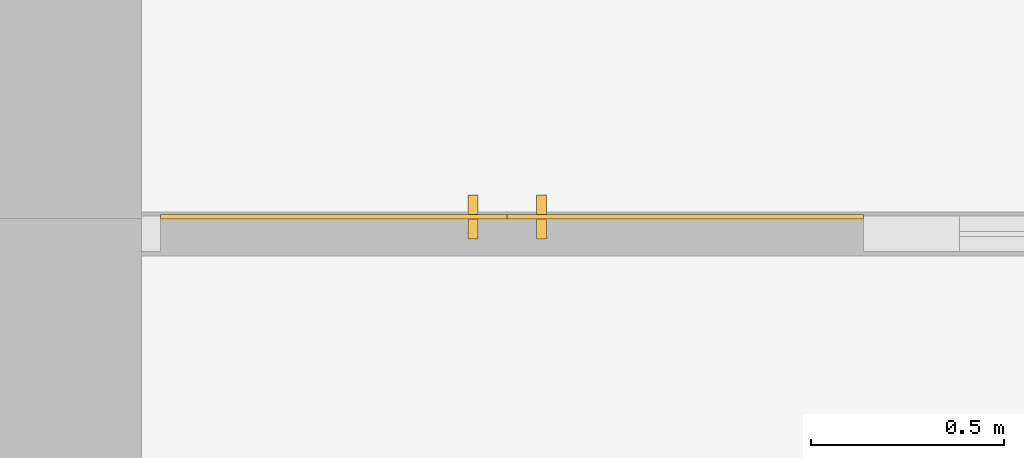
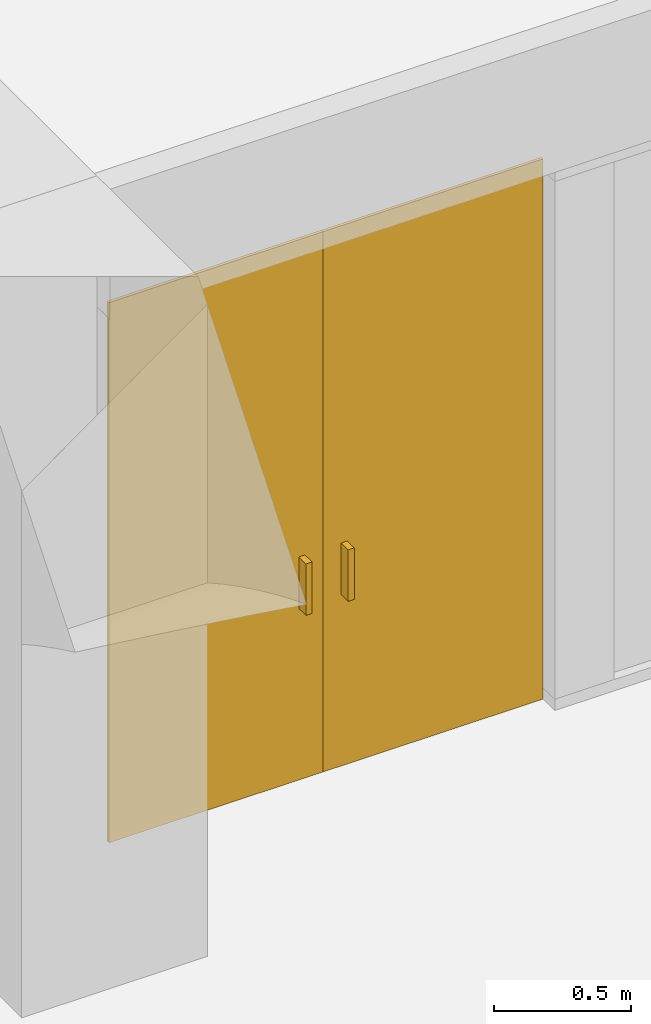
# One storey, part 85 of 88: 2 doors, 1 element without a shape of its own.
"""IFC2X3 building model written with IfcOpenShell, lengths in millimetres."""

from ifc_helpers import new_model, entity, si_unit, converted_unit, derived_unit, direction, frame, frame_2d, origin, place, context, subcontext, project, spatial, rectangle, extrude, source, transform, mapped, material, material_list, type_object, type_shapes, element, aggregate, save


model = new_model("IFC2X3")

# Units and contexts
model_context = context("Model", 3, precision=0.01, world=origin(), true_north=direction((6.123031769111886e-17, 1.0)))
body_context = subcontext(model_context, "Body", "Model", "MODEL_VIEW")
ifc_project = project(units=[si_unit("LENGTHUNIT", "METRE", prefix="MILLI"), si_unit("AREAUNIT", "SQUARE_METRE"), si_unit("VOLUMEUNIT", "CUBIC_METRE"), converted_unit("PLANEANGLEUNIT", "DEGREE", entity("IfcPlaneAngleMeasure", 0.017453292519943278), si_unit("PLANEANGLEUNIT", "RADIAN"), dimensions=[0, 0, 0, 0, 0, 0, 0]), si_unit("MASSUNIT", "GRAM", prefix="KILO"), derived_unit("MASSDENSITYUNIT", [(si_unit("MASSUNIT", "GRAM", prefix="KILO"), 1), (si_unit("LENGTHUNIT", "METRE"), -3)]), derived_unit("IONCONCENTRATIONUNIT", [(si_unit("MASSUNIT", "GRAM", prefix="KILO"), 1), (si_unit("LENGTHUNIT", "METRE"), -3)]), derived_unit("MOMENTOFINERTIAUNIT", [(si_unit("LENGTHUNIT", "METRE"), 4)]), si_unit("TIMEUNIT", "SECOND"), si_unit("FREQUENCYUNIT", "HERTZ"), si_unit("THERMODYNAMICTEMPERATUREUNIT", "DEGREE_CELSIUS"), derived_unit("THERMALTRANSMITTANCEUNIT", [(si_unit("MASSUNIT", "GRAM", prefix="KILO"), 1), (si_unit("THERMODYNAMICTEMPERATUREUNIT", "KELVIN"), -1), (si_unit("TIMEUNIT", "SECOND"), -3)]), derived_unit("THERMALCONDUCTANCEUNIT", [(si_unit("MASSUNIT", "GRAM", prefix="KILO"), 1), (si_unit("THERMODYNAMICTEMPERATUREUNIT", "KELVIN"), -1), (si_unit("TIMEUNIT", "SECOND"), -3), (si_unit("LENGTHUNIT", "METRE"), 1)]), derived_unit("VOLUMETRICFLOWRATEUNIT", [(si_unit("LENGTHUNIT", "METRE", prefix="DECI"), 3), (si_unit("TIMEUNIT", "SECOND"), -1)]), derived_unit("MASSFLOWRATEUNIT", [(si_unit("MASSUNIT", "GRAM", prefix="KILO"), 1), (si_unit("TIMEUNIT", "SECOND"), -1)]), derived_unit("ROTATIONALFREQUENCYUNIT", [(si_unit("TIMEUNIT", "SECOND"), -1)]), si_unit("ELECTRICCURRENTUNIT", "AMPERE"), si_unit("ELECTRICVOLTAGEUNIT", "VOLT"), si_unit("POWERUNIT", "WATT"), si_unit("FORCEUNIT", "NEWTON", prefix="KILO"), si_unit("ILLUMINANCEUNIT", "LUX"), si_unit("LUMINOUSFLUXUNIT", "LUMEN"), si_unit("LUMINOUSINTENSITYUNIT", "CANDELA"), si_unit("ENERGYUNIT", "JOULE"), derived_unit("USERDEFINED", [(si_unit("MASSUNIT", "GRAM", prefix="KILO"), -1), (si_unit("LENGTHUNIT", "METRE"), -2), (si_unit("TIMEUNIT", "SECOND"), 3), (si_unit("LUMINOUSFLUXUNIT", "LUMEN"), 1)]), derived_unit("USERDEFINED", [(si_unit("MASSUNIT", "GRAM", prefix="KILO"), 1), (si_unit("TIMEUNIT", "SECOND"), -3), (si_unit("LENGTHUNIT", "METRE"), 3), (si_unit("ELECTRICCURRENTUNIT", "AMPERE"), -2)]), derived_unit("SOUNDPOWERUNIT", [(si_unit("MASSUNIT", "GRAM", prefix="KILO"), 1), (si_unit("TIMEUNIT", "SECOND"), -3), (si_unit("LENGTHUNIT", "METRE"), 2)]), derived_unit("SOUNDPRESSUREUNIT", [(si_unit("MASSUNIT", "GRAM", prefix="KILO"), 1), (si_unit("LENGTHUNIT", "METRE"), -1), (si_unit("TIMEUNIT", "SECOND"), -2)]), derived_unit("LINEARVELOCITYUNIT", [(si_unit("LENGTHUNIT", "METRE"), 1), (si_unit("TIMEUNIT", "SECOND"), -1)]), si_unit("PRESSUREUNIT", "PASCAL"), derived_unit("USERDEFINED", [(si_unit("MASSUNIT", "GRAM", prefix="KILO"), 1), (si_unit("LENGTHUNIT", "METRE"), -2), (si_unit("TIMEUNIT", "SECOND"), -2)]), derived_unit("LINEARFORCEUNIT", [(si_unit("MASSUNIT", "GRAM", prefix="KILO"), 1), (si_unit("TIMEUNIT", "SECOND"), -2)]), derived_unit("PLANARFORCEUNIT", [(si_unit("MASSUNIT", "GRAM", prefix="KILO"), 1), (si_unit("LENGTHUNIT", "METRE"), -1), (si_unit("TIMEUNIT", "SECOND"), -2)]), derived_unit("SPECIFICHEATCAPACITYUNIT", [(si_unit("THERMODYNAMICTEMPERATUREUNIT", "KELVIN"), -1), (si_unit("LENGTHUNIT", "METRE"), 2), (si_unit("TIMEUNIT", "SECOND"), -2)]), derived_unit("HEATFLUXDENSITYUNIT", [(si_unit("MASSUNIT", "GRAM", prefix="KILO"), 1), (si_unit("TIMEUNIT", "SECOND"), -3)]), derived_unit("HEATINGVALUEUNIT", [(si_unit("LENGTHUNIT", "METRE"), 2), (si_unit("TIMEUNIT", "SECOND"), -2)]), derived_unit("VAPORPERMEABILITYUNIT", [(si_unit("LENGTHUNIT", "METRE"), -1), (si_unit("TIMEUNIT", "SECOND"), 1)]), derived_unit("DYNAMICVISCOSITYUNIT", [(si_unit("MASSUNIT", "GRAM", prefix="KILO"), 1), (si_unit("TIMEUNIT", "SECOND"), -1), (si_unit("LENGTHUNIT", "METRE"), -1)]), derived_unit("THERMALEXPANSIONCOEFFICIENTUNIT", [(si_unit("THERMODYNAMICTEMPERATUREUNIT", "KELVIN"), -1)]), derived_unit("MODULUSOFELASTICITYUNIT", [(si_unit("MASSUNIT", "GRAM", prefix="KILO"), 1), (si_unit("LENGTHUNIT", "METRE"), -1), (si_unit("TIMEUNIT", "SECOND"), -2)]), derived_unit("ISOTHERMALMOISTURECAPACITYUNIT", [(si_unit("MASSUNIT", "GRAM", prefix="KILO"), -1), (si_unit("LENGTHUNIT", "METRE"), 3)]), derived_unit("MOISTUREDIFFUSIVITYUNIT", [(si_unit("TIMEUNIT", "SECOND"), -1), (si_unit("LENGTHUNIT", "METRE"), 2)]), derived_unit("MASSPERLENGTHUNIT", [(si_unit("MASSUNIT", "GRAM", prefix="KILO"), 1), (si_unit("LENGTHUNIT", "METRE"), -1)]), derived_unit("THERMALRESISTANCEUNIT", [(si_unit("MASSUNIT", "GRAM", prefix="KILO"), -1), (si_unit("TIMEUNIT", "SECOND"), 3), (si_unit("THERMODYNAMICTEMPERATUREUNIT", "KELVIN"), 1)]), derived_unit("ACCELERATIONUNIT", [(si_unit("LENGTHUNIT", "METRE"), 1), (si_unit("TIMEUNIT", "SECOND"), -2)]), derived_unit("ANGULARVELOCITYUNIT", [(si_unit("TIMEUNIT", "SECOND"), -1), (si_unit("PLANEANGLEUNIT", "RADIAN"), 1)]), derived_unit("LINEARSTIFFNESSUNIT", [(si_unit("MASSUNIT", "GRAM", prefix="KILO"), 1), (si_unit("TIMEUNIT", "SECOND"), -2)]), derived_unit("WARPINGCONSTANTUNIT", [(si_unit("LENGTHUNIT", "METRE"), 6)]), derived_unit("LINEARMOMENTUNIT", [(si_unit("MASSUNIT", "GRAM", prefix="KILO"), 1), (si_unit("LENGTHUNIT", "METRE"), 1), (si_unit("TIMEUNIT", "SECOND"), -2)]), derived_unit("TORQUEUNIT", [(si_unit("MASSUNIT", "GRAM", prefix="KILO"), 1), (si_unit("LENGTHUNIT", "METRE"), 2), (si_unit("TIMEUNIT", "SECOND"), -2)])], contexts=[model_context])

# Site, building, storey
site_placement = place(None, origin())
site = spatial("IfcSite", under=ifc_project, at=site_placement, Name="Default", CompositionType="ELEMENT")
building_placement = place(site_placement, origin())
building = spatial("IfcBuilding", under=site, at=building_placement, Name="Eesti Rahvusraamatukogu hoone renoveerimise projekteerimistööd", CompositionType="ELEMENT")
storey_placement = place(building_placement, origin())
storey = spatial("IfcBuildingStorey", under=building, at=storey_placement, Name="1. korrus", CompositionType="ELEMENT", Elevation=0.0)

# Curtain wall, doors
curtain_wall_type = type_object("IfcCurtainWallType", Name="Curtain Wall:VLS Klaasvahesein profiilita 38db", PredefinedType="NOTDEFINED")
curtain_wall_placement = place(storey_placement, origin())
curtain_wall = element("IfcCurtainWall", 1, at=curtain_wall_placement, inside=storey, type_object=curtain_wall_type, Name="Curtain Wall:VLS Klaasvahesein profiilita 38db", ObjectType="Curtain Wall:VLS Klaasvahesein profiilita 38db")
ifc_material_1 = material(Name="EST. Klaas. 1x. E-korpus")
ifc_material_2 = material(Name="EST.Alumiinium.RAL9005")
ifc_material_list = material_list([ifc_material_1, ifc_material_2])
door_style_1 = type_object("IfcDoorStyle", Name="1-poolne, klaasseina uks:Metallprofiiluks 01", ConstructionType="NOTDEFINED", OperationType="SINGLE_SWING_RIGHT", ParameterTakesPrecedence=False, Sizeable=False, material=ifc_material_list)
shared_shape_1 = source(origin(), body_context, "Body", "SweptSolid", [
    extrude(rectangle(XDim=924.9999999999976, YDim=12.700000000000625, at=frame_2d((0.0, 3.9968028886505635e-15), x_axis=(1.0, 0.0))), frame((0.0, 44.45000000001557, 0.0), z_axis=(0.0, 0.0, 1.0), x_axis=(-1.0, 0.0, 0.0)), (0.0, 0.0, 1.0), 2400.0),
    extrude(rectangle(XDim=50.8, YDim=25.399999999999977, at=frame_2d((0.0, -3.375077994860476e-14), x_axis=(1.0, 0.0))), frame((-373.5999999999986, 12.700000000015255, 762.0), z_axis=(0.0, 0.0, 1.0), x_axis=(0.0, 1.0, 0.0)), (0.0, 0.0, 1.0), 228.60000000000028),
    extrude(rectangle(XDim=50.80000000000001, YDim=25.399999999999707, at=frame_2d((-8.881784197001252e-15, 3.375077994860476e-14), x_axis=(1.0, 0.0))), frame((-373.5999999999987, 76.20000000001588, 762.0), z_axis=(0.0, 0.0, 1.0), x_axis=(0.0, -1.0, 0.0)), (0.0, 0.0, 1.0), 228.60000000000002),
])
type_shapes(door_style_1, [shared_shape_1])
door_1_placement = place(curtain_wall_placement, frame((-47167.467047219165, 48760.37627987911, 0.0)))
door_1 = element("IfcDoor", 2, at=door_1_placement, type_object=door_style_1, material=ifc_material_list, Name="1-poolne, klaasseina uks:Metallprofiiluks 01", ObjectType="1-poolne, klaasseina uks:Metallprofiiluks 01", OverallHeight=2400.0, OverallWidth=925.0000000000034, context=body_context, shape_type="MappedRepresentation", body=[
    mapped(shared_shape_1, transform((0.0, 0.0, 0.0), scale=1.0)),
])
door_style_2 = type_object("IfcDoorStyle", Name="1-poolne, klaasseina uks:Metallprofiiluks 01", ConstructionType="NOTDEFINED", OperationType="SINGLE_SWING_LEFT", ParameterTakesPrecedence=False, Sizeable=False, material=ifc_material_list)
shared_shape_2 = source(origin(), body_context, "Body", "SweptSolid", [
    extrude(rectangle(XDim=12.700000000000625, YDim=900.0000000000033, at=frame_2d((-3.9968028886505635e-15, 0.0), x_axis=(1.0, 0.0))), frame((0.0, 44.450000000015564, 0.0), z_axis=(0.0, 0.0, 1.0), x_axis=(0.0, -1.0, 0.0)), (0.0, 0.0, 1.0), 2400.0),
    extrude(rectangle(XDim=25.399999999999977, YDim=50.8, at=frame_2d((-3.375077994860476e-14, 0.0), x_axis=(1.0, 0.0))), frame((361.10000000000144, 12.700000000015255, 762.0)), (0.0, 0.0, 1.0), 228.60000000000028),
    extrude(rectangle(XDim=25.399999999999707, YDim=50.80000000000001, at=frame_2d((3.375077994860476e-14, -8.881784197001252e-15), x_axis=(1.0, 0.0))), frame((361.10000000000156, 76.20000000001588, 762.0), z_axis=(0.0, 0.0, 1.0), x_axis=(-1.0, 0.0, 0.0)), (0.0, 0.0, 1.0), 228.60000000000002),
])
type_shapes(door_style_2, [shared_shape_2])
door_2_placement = place(curtain_wall_placement, frame((-48079.967047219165, 48760.37627987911, 0.0)))
door_2 = element("IfcDoor", 3, at=door_2_placement, type_object=door_style_2, material=ifc_material_list, Name="1-poolne, klaasseina uks:Metallprofiiluks 01", ObjectType="1-poolne, klaasseina uks:Metallprofiiluks 01", OverallHeight=2400.0, OverallWidth=900.0000000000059, context=body_context, shape_type="MappedRepresentation", body=[
    mapped(shared_shape_2, transform((0.0, 0.0, 0.0), scale=1.0)),
])
aggregate(curtain_wall, [door_1, door_2])

save(model, "model.ifc")
